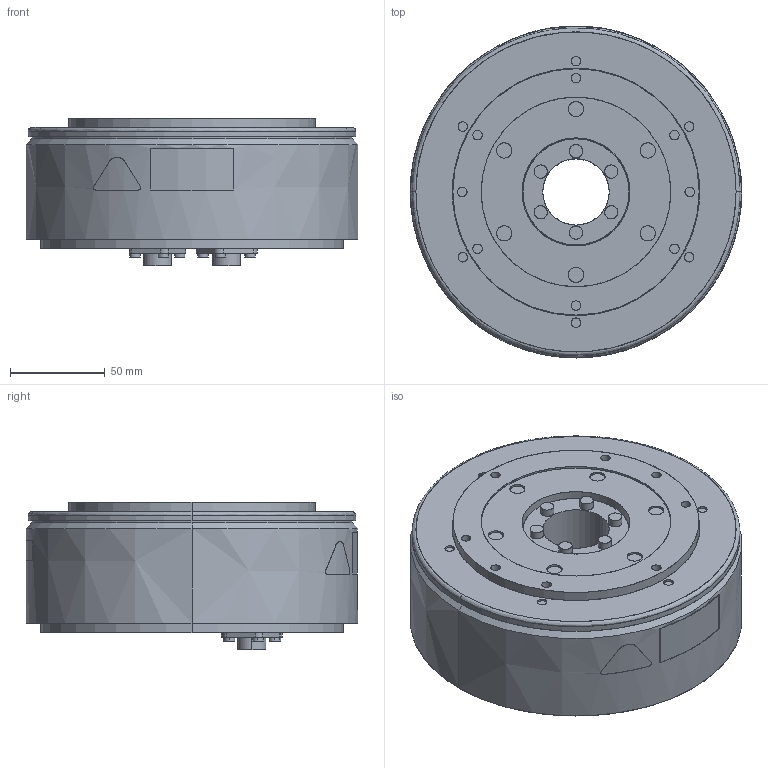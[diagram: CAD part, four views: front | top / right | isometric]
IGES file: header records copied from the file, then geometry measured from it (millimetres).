
Start section: SolidWorks IGES file using analytic representation for surfaces
Bounding box: 175 x 175.2 x 78.1 mm (x, y, z)
Surface area: 97872.8 mm2 (no closed solid volume)
Topology: 0 solids, 0 shells, 294 faces, 5906 edges, 5906 vertices
Faces by surface type: revolution 165, bspline 129
